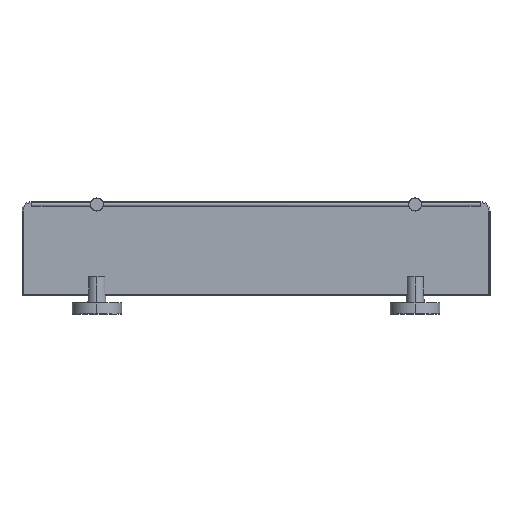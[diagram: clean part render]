
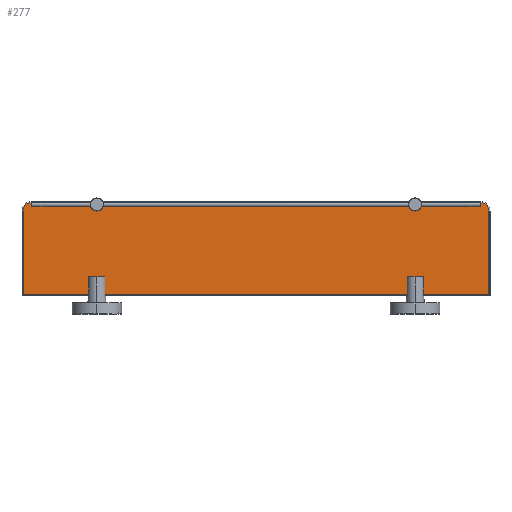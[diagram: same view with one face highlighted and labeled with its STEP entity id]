
A CAD part, top view. The second image highlights one B-rep face of the part: STEP entity #277.
In plain terms, the highlighted planar face has unit normal (0, 0, 1).
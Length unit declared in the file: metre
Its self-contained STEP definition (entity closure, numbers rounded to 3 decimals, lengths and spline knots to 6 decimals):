
#277=ADVANCED_FACE('',(#283),#278,.T.);
#278=PLANE('',#279);
#279=AXIS2_PLACEMENT_3D('',#280,#281,#282);
#280=CARTESIAN_POINT('',(-0.0,0.02,0.00375));
#281=DIRECTION('',(0.,0.0,1.0));
#282=DIRECTION('',(0.0,-1.0,0.0));
#283=FACE_OUTER_BOUND('',#284,.T.);
#284=EDGE_LOOP('',(#285,#295,#303,#311,#320,#328));
#285=ORIENTED_EDGE('',*,*,#286,.T.);
#286=EDGE_CURVE('',#287,#289,#291,.T.);
#287=VERTEX_POINT('',#288);
#288=CARTESIAN_POINT('',(-0.248917,0.11,0.00375));
#289=VERTEX_POINT('',#290);
#290=CARTESIAN_POINT('',(-0.248917,0.021083,0.00375));
#291=LINE('',#292,#293);
#292=CARTESIAN_POINT('',(-0.248917,0.02,0.00375));
#293=VECTOR('',#294,1.0);
#294=DIRECTION('',(0.0,-1.0,0.0));
#295=ORIENTED_EDGE('',*,*,#296,.T.);
#296=EDGE_CURVE('',#289,#297,#299,.T.);
#297=VERTEX_POINT('',#298);
#298=CARTESIAN_POINT('',(0.248917,0.021083,0.00375));
#299=LINE('',#300,#301);
#300=CARTESIAN_POINT('',(-0.0,0.021083,0.00375));
#301=VECTOR('',#302,1.0);
#302=DIRECTION('',(1.0,0.0,0.));
#303=ORIENTED_EDGE('',*,*,#304,.T.);
#304=EDGE_CURVE('',#297,#305,#307,.T.);
#305=VERTEX_POINT('',#306);
#306=CARTESIAN_POINT('',(0.248917,0.11,0.00375));
#307=LINE('',#308,#309);
#308=CARTESIAN_POINT('',(0.248917,0.02,0.00375));
#309=VECTOR('',#310,1.0);
#310=DIRECTION('',(0.0,1.0,0.0));
#311=ORIENTED_EDGE('',*,*,#312,.T.);
#312=EDGE_CURVE('',#305,#313,#315,.T.);
#313=VERTEX_POINT('',#314);
#314=CARTESIAN_POINT('',(0.24,0.118917,0.00375));
#315=CIRCLE('',#316,0.008917);
#316=AXIS2_PLACEMENT_3D('',#317,#318,#319);
#317=CARTESIAN_POINT('',(0.24,0.11,0.00375));
#318=DIRECTION('',(0.,0.0,1.0));
#319=DIRECTION('',(1.0,0.0,0.));
#320=ORIENTED_EDGE('',*,*,#321,.T.);
#321=EDGE_CURVE('',#313,#322,#324,.T.);
#322=VERTEX_POINT('',#323);
#323=CARTESIAN_POINT('',(-0.24,0.118917,0.00375));
#324=LINE('',#325,#326);
#325=CARTESIAN_POINT('',(-0.0,0.118917,0.00375));
#326=VECTOR('',#327,1.0);
#327=DIRECTION('',(-1.0,0.0,0.));
#328=ORIENTED_EDGE('',*,*,#329,.T.);
#329=EDGE_CURVE('',#322,#287,#330,.T.);
#330=CIRCLE('',#331,0.008917);
#331=AXIS2_PLACEMENT_3D('',#332,#333,#334);
#332=CARTESIAN_POINT('',(-0.24,0.11,0.00375));
#333=DIRECTION('',(0.,0.0,1.0));
#334=DIRECTION('',(1.0,0.0,0.));
